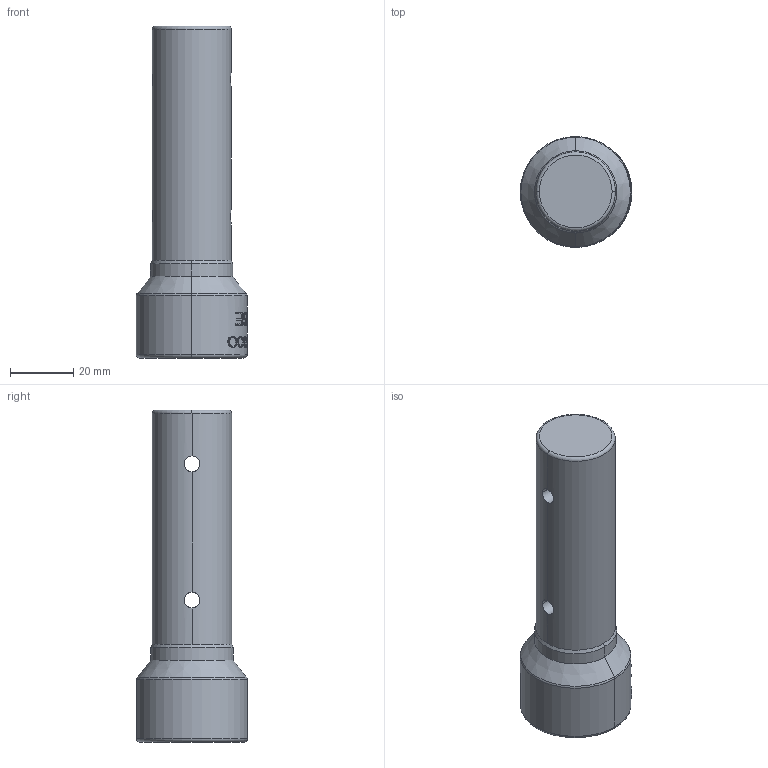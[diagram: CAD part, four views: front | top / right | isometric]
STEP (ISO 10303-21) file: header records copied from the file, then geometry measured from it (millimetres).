
FILE_DESCRIPTION((''),'2;1');
FILE_NAME('PRT0067','2025-12-29T10:05:59',('28740194'),(''),'CREO PARAMETRIC BY PTC INC, 2024063','CREO PARAMETRIC BY PTC INC, 2024063','');
FILE_SCHEMA(('CONFIG_CONTROL_DESIGN'));
Length unit declared in the file: millimetre
Products named in the file (1): PRT0067
Bounding box: 35.21 x 35 x 104.8 mm (x, y, z)
Volume: 61463.3 mm3; surface area: 11245.2 mm2
Topology: 1 solids, 1 shells, 428 faces, 1224 edges, 812 vertices
Faces by surface type: bspline 388, cylinder 28, torus 6, cone 4, plane 2
Entity records: 18980 total; most frequent: CARTESIAN_POINT 10724, ORIENTED_EDGE 2448, EDGE_CURVE 1224, B_SPLINE_CURVE_WITH_KNOTS 978, VERTEX_POINT 812, DIRECTION 468, EDGE_LOOP 446, FACE_OUTER_BOUND 428
